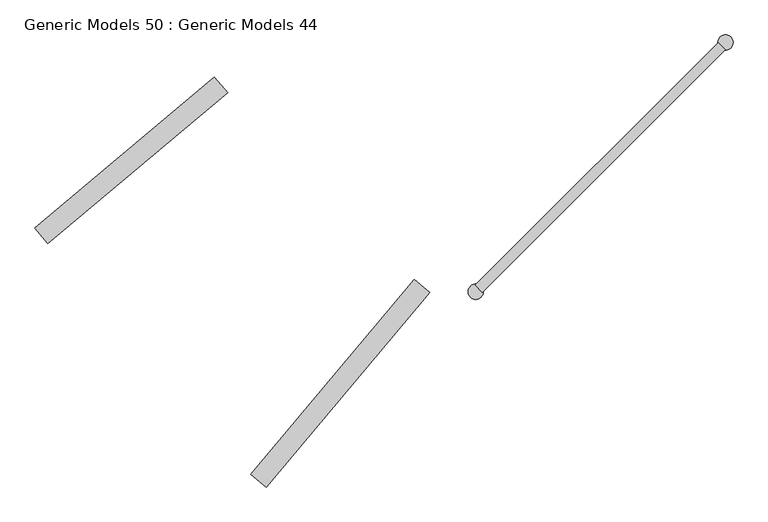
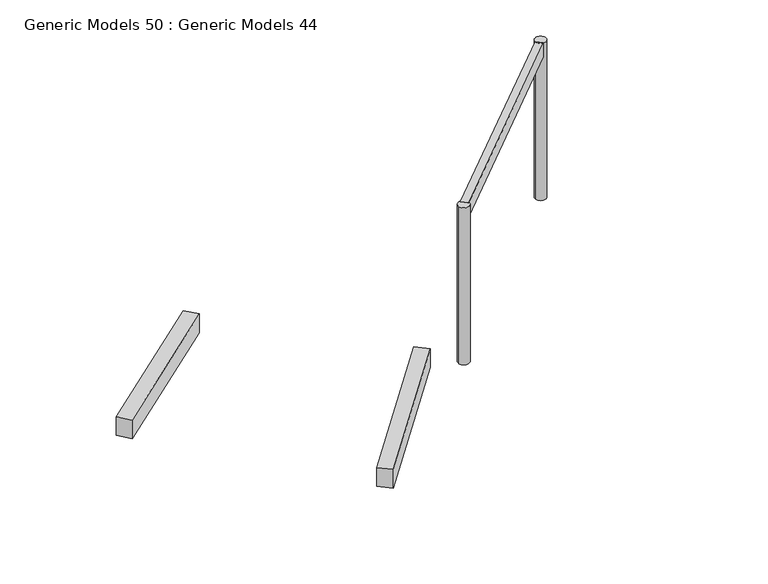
"""IFC4 building model written with IfcOpenShell, lengths in millimetres: proxy geometry, Generic Models 50 : Generic Models 44."""

from ifc_helpers import new_model, si_unit, point, frame, frame_2d, origin, place, context, project, spatial, polyline, circle_curve, trimmed, segment, composite_curve, outline, extrude, source, transform, mapped, element, save


def generic_models_50_generic_models_44_a277baf7(model_context):
    return source(origin(), model_context, "Body", "SweptSolid", [
        extrude(outline(polyline([(-104010.147005, -35737.0994253), (-104163.3558936, -35608.5419033), (-102552.3285411, -33688.5942681), (-102399.1196524, -33817.1517901), (-104010.147005, -35737.0994253)])), frame((0.0, 0.0, 42770.0), z_axis=(0.0, 0.0, 1.0), x_axis=(1.0, 0.0, 0.0)), (0.0, 0.0, 1.0), 268.5053554),
        extrude(outline(polyline([(-106159.1738466, -33333.9533005), (-106287.7313685, -33180.7444118), (-104519.3636941, -31696.9077484), (-104390.8061721, -31850.116637), (-106159.1738466, -33333.9533005)])), frame((0.0, 0.0, 42770.0), z_axis=(0.0, 0.0, 1.0), x_axis=(1.0, 0.0, 0.0)), (0.0, 0.0, 1.0), 268.5053554),
        extrude(outline(polyline([(-101881.3373272, -33817.7796088), (-101952.0480054, -33747.0689307), (-99559.3329679, -31354.3538932), (-99488.6222898, -31425.0645713), (-101881.3373272, -33817.7796088)])), frame((0.0, 0.0, 44746.1646464), z_axis=(0.0, 0.0, 1.0), x_axis=(1.0, 0.0, 0.0)), (0.0, 0.0, 1.0), 195.4634247),
        extrude(outline(composite_curve([segment(trimmed(circle_curve(frame_2d((-101946.4045287, -33810.9678051)), 75.0), [point((-102021.4045287, -33810.9678051))], [point((-101871.4045287, -33810.9678051))], False, "CARTESIAN"), True, "CONTINUOUS"), segment(trimmed(circle_curve(frame_2d((-101946.4045287, -33810.9678051)), 75.0), [point((-101871.4045287, -33810.9678051))], [point((-102021.4045287, -33810.9678051))], False, "CARTESIAN"), True, "CONTINUOUS")], self_intersect=False)), frame((0.0, 0.0, 42695.9057084), z_axis=(0.0, 0.0, 1.0), x_axis=(1.0, 0.0, 0.0)), (0.0, 0.0, 1.0), 2245.7223627),
        extrude(outline(composite_curve([segment(trimmed(circle_curve(frame_2d((-99486.2157994, -31353.5552475)), 75.0), [point((-99561.2157994, -31353.5552475))], [point((-99411.2157994, -31353.5552475))], False, "CARTESIAN"), True, "CONTINUOUS"), segment(trimmed(circle_curve(frame_2d((-99486.2157994, -31353.5552475)), 75.0), [point((-99411.2157994, -31353.5552475))], [point((-99561.2157994, -31353.5552475))], False, "CARTESIAN"), True, "CONTINUOUS")], self_intersect=False)), frame((0.0, 0.0, 42695.9057084), z_axis=(0.0, 0.0, 1.0), x_axis=(1.0, 0.0, 0.0)), (0.0, 0.0, 1.0), 2245.7223627),
    ])


if __name__ == "__main__":
    model = new_model("IFC4")
    model_context = context("Model", 3, world=origin())
    ifc_project = project(units=[si_unit("LENGTHUNIT", "METRE", prefix="MILLI")], contexts=[model_context])
    site = spatial("IfcSite", under=ifc_project)
    building = spatial("IfcBuilding", under=site)
    placement = place(None, origin())
    generic_models_50_generic_models_44_shape = generic_models_50_generic_models_44_a277baf7(model_context)
    element("IfcBuildingElementProxy", 1, Name="Generic Models 50 : Generic Models 44", ObjectType="Generic Models 50 : Generic Models 44", at=placement, inside=building, context=model_context, shape_type="MappedRepresentation", body=[
        mapped(generic_models_50_generic_models_44_shape, transform((0.0, 0.0, 0.0), x_axis=(1.0, 0.0, 0.0), y_axis=(0.0, 1.0, 0.0), z_axis=(0.0, 0.0, 1.0))),
    ])
    save(model, "model.ifc")
